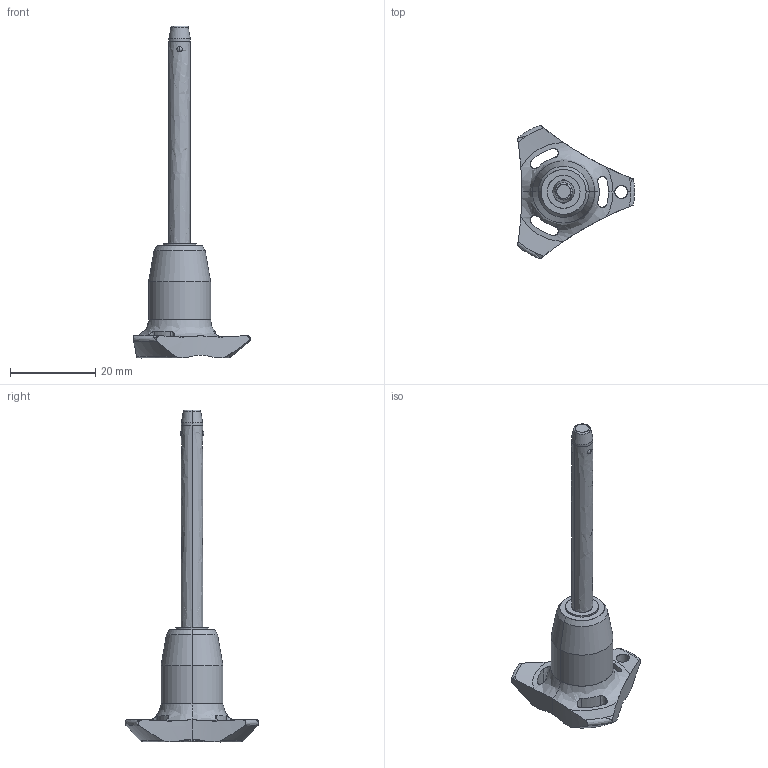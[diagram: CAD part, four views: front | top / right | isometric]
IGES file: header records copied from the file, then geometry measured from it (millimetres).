
Start section: SolidWorks IGES file using analytic representation for surfaces
Global section: file name: C:\Users\ianosborn\Desktop\QR1726_v2\QR1726_v2_20251115_IGES\QR1726.M05-045-T.igs; native system: SolidWorks 2019; preprocessor: SolidWorks 2019; author: IanOsborn; date: 251113.110009; units: millimetre
Bounding box: 27.4 x 31.31 x 77.7 mm (x, y, z)
Surface area: 3215.3 mm2 (no closed solid volume)
Topology: 0 solids, 0 shells, 69 faces, 1299 edges, 1280 vertices
Faces by surface type: revolution 52, bspline 17
